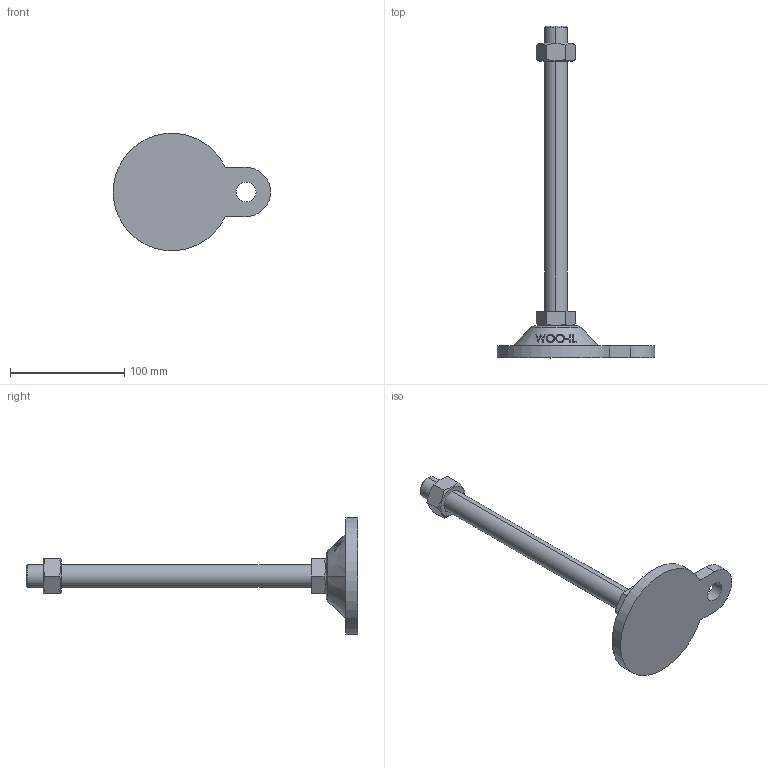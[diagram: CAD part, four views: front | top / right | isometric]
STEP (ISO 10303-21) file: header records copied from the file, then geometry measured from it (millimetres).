
FILE_DESCRIPTION (( 'STEP AP214' ), '1' );
FILE_NAME ('ARB103-M20-250.step', '2021-03-25T00:41:40', ( '' ), ( '' ), 'SwSTEP 2.0', 'SolidWorks 2019', '' );
FILE_SCHEMA (( 'AUTOMOTIVE_DESIGN' ));
Length unit declared in the file: millimetre
Products named in the file (2): ARB103-M20-250
Bounding box: 137.8 x 291 x 102.64 mm (x, y, z)
Volume: 242264.8 mm3; surface area: 46858.7 mm2
Topology: 3 solids, 3 shells, 97 faces, 229 edges, 148 vertices
Faces by surface type: plane 49, cone 22, bspline 16, cylinder 8, torus 2
Entity records: 4424 total; most frequent: CARTESIAN_POINT 2262, ORIENTED_EDGE 458, DIRECTION 375, EDGE_CURVE 229, VERTEX_POINT 148, AXIS2_PLACEMENT_3D 143, EDGE_LOOP 111, ADVANCED_FACE 97
